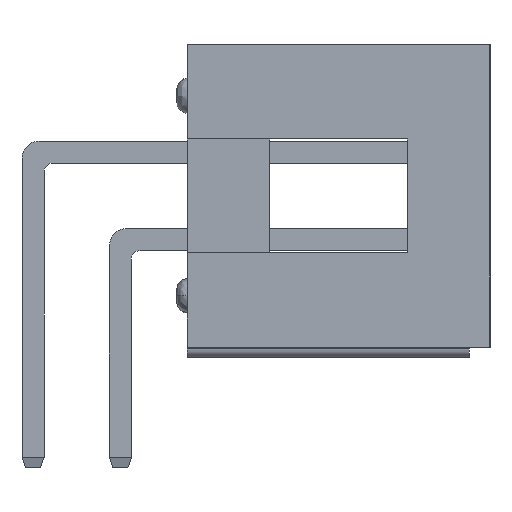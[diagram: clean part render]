
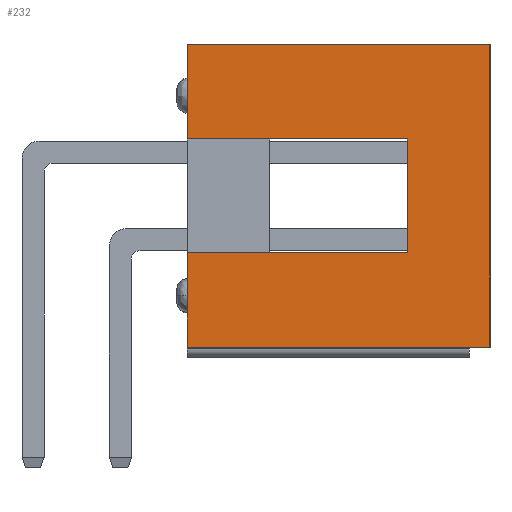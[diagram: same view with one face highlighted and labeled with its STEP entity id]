
A CAD part, left-side view. The second image highlights one B-rep face of the part: STEP entity #232.
In plain terms, the highlighted planar face has unit normal (-1, 0, 0).
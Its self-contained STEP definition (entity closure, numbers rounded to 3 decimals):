
#232=ADVANCED_FACE('NONE',(#774),#775,.T.);
#774=FACE_OUTER_BOUND('',#1759,.T.);
#775=PLANE('',#1760);
#1759=EDGE_LOOP('',(#3299,#3300,#3301,#3302,#3303,#3304,#3305,#3306));
#1760=AXIS2_PLACEMENT_3D('',#3307,#3308,#3309);
#3299=ORIENTED_EDGE('',*,*,#6064,.F.);
#3300=ORIENTED_EDGE('',*,*,#6164,.T.);
#3301=ORIENTED_EDGE('',*,*,#6165,.T.);
#3302=ORIENTED_EDGE('',*,*,#6079,.F.);
#3303=ORIENTED_EDGE('',*,*,#6166,.T.);
#3304=ORIENTED_EDGE('',*,*,#6167,.T.);
#3305=ORIENTED_EDGE('',*,*,#6168,.T.);
#3306=ORIENTED_EDGE('',*,*,#6075,.F.);
#3307=CARTESIAN_POINT('',(-203.281,50.574,10.49));
#3308=DIRECTION('',(-1.0,0.,0.));
#3309=DIRECTION('',(0.,0.0,1.0));
#6064=EDGE_CURVE('NONE',#7226,#7228,#7229,.T.);
#6075=EDGE_CURVE('NONE',#7228,#7247,#7248,.T.);
#6079=EDGE_CURVE('NONE',#7253,#7255,#7256,.T.);
#6164=EDGE_CURVE('NONE',#7226,#7407,#7408,.T.);
#6165=EDGE_CURVE('NONE',#7407,#7255,#7409,.T.);
#6166=EDGE_CURVE('NONE',#7253,#7410,#7411,.T.);
#6167=EDGE_CURVE('NONE',#7410,#7412,#7413,.T.);
#6168=EDGE_CURVE('NONE',#7412,#7247,#7414,.T.);
#7226=VERTEX_POINT('NONE',#9072);
#7228=VERTEX_POINT('NONE',#9075);
#7229=LINE('',#9076,#9077);
#7247=VERTEX_POINT('NONE',#9105);
#7248=LINE('',#9106,#9107);
#7253=VERTEX_POINT('NONE',#9114);
#7255=VERTEX_POINT('NONE',#9117);
#7256=LINE('',#9118,#9119);
#7407=VERTEX_POINT('NONE',#9343);
#7408=LINE('',#9344,#9345);
#7409=LINE('',#9346,#9347);
#7410=VERTEX_POINT('NONE',#9348);
#7411=LINE('',#9349,#9350);
#7412=VERTEX_POINT('NONE',#9351);
#7413=LINE('',#9352,#9353);
#7414=LINE('',#9354,#9355);
#9072=CARTESIAN_POINT('',(-203.281,41.774,10.5));
#9075=CARTESIAN_POINT('',(-203.281,50.574,10.5));
#9076=CARTESIAN_POINT('',(-203.281,50.574,10.5));
#9077=VECTOR('',#11468,1000.0);
#9105=CARTESIAN_POINT('',(-203.281,50.574,13.25));
#9106=CARTESIAN_POINT('',(-203.281,50.574,14.89));
#9107=VECTOR('',#11479,1000.0);
#9114=CARTESIAN_POINT('',(-203.281,50.574,16.55));
#9117=CARTESIAN_POINT('',(-203.281,50.574,19.3));
#9118=CARTESIAN_POINT('',(-203.281,50.574,14.89));
#9119=VECTOR('',#11483,1000.0);
#9343=CARTESIAN_POINT('',(-203.281,41.774,19.3));
#9344=CARTESIAN_POINT('',(-203.281,41.774,10.49));
#9345=VECTOR('',#11590,1000.0);
#9346=CARTESIAN_POINT('',(-203.281,50.574,19.3));
#9347=VECTOR('',#11591,1000.0);
#9348=CARTESIAN_POINT('',(-203.281,44.174,16.55));
#9349=CARTESIAN_POINT('',(-203.281,50.574,16.55));
#9350=VECTOR('',#11592,1000.0);
#9351=CARTESIAN_POINT('',(-203.281,44.174,13.25));
#9352=CARTESIAN_POINT('',(-203.281,44.174,10.49));
#9353=VECTOR('',#11593,1000.0);
#9354=CARTESIAN_POINT('',(-203.281,50.574,13.25));
#9355=VECTOR('',#11594,1000.0);
#11468=DIRECTION('',(0.0,1.0,0.));
#11479=DIRECTION('',(0.0,0.,1.0));
#11483=DIRECTION('',(0.0,0.,1.0));
#11590=DIRECTION('',(0.,0.0,1.0));
#11591=DIRECTION('',(0.,1.0,0.));
#11592=DIRECTION('',(0.,-1.0,0.));
#11593=DIRECTION('',(0.,-0.0,-1.0));
#11594=DIRECTION('',(0.,1.0,0.));
